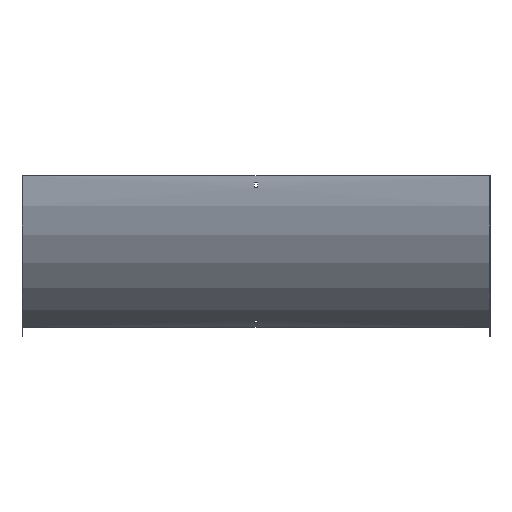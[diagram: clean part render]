
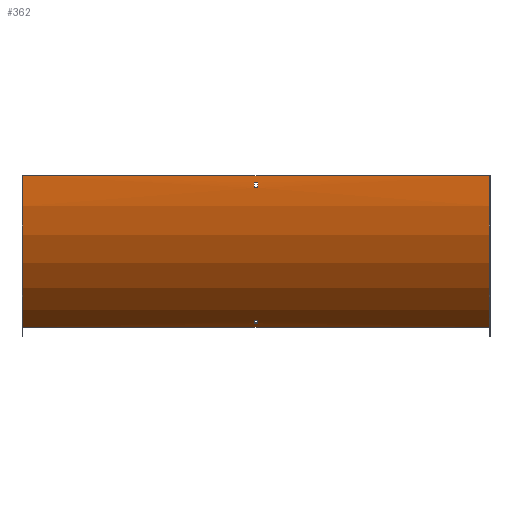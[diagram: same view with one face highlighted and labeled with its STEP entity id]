
A CAD part, front view. The second image highlights one B-rep face of the part: STEP entity #362.
In plain terms, the highlighted cylindrical face has radius 300 mm (diameter 600 mm), a partial arc.
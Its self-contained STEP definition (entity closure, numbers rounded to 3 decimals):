
#1 = LINE ( 'NONE', #62, #88 ) ;
#3 = AXIS2_PLACEMENT_3D ( 'NONE', #193, #387, #563 ) ;
#5 = CIRCLE ( 'NONE', #300, 300. ) ;
#12 = CARTESIAN_POINT ( 'NONE',  ( -3.25, 298.5, 0. ) ) ;
#28 = CARTESIAN_POINT ( 'NONE',  ( 401.5, -1.26, -12. ) ) ;
#32 = VERTEX_POINT ( 'NONE', #581 ) ;
#34 = AXIS2_PLACEMENT_3D ( 'NONE', #537, #169, #410 ) ;
#39 = EDGE_CURVE ( 'NONE', #411, #299, #5, .T. ) ;
#42 = AXIS2_PLACEMENT_3D ( 'NONE', #12, #153, #43 ) ;
#43 = DIRECTION ( 'NONE',  ( 0., 0., 1. ) ) ;
#51 = LINE ( 'NONE', #379, #280 ) ;
#55 = LINE ( 'NONE', #235, #560 ) ;
#59 = ORIENTED_EDGE ( 'NONE', *, *, #492, .T. ) ;
#62 = CARTESIAN_POINT ( 'NONE',  ( 401.5, 138.228, -253.6 ) ) ;
#63 = DIRECTION ( 'NONE',  ( 0., 0., -1. ) ) ;
#69 = ORIENTED_EDGE ( 'NONE', *, *, #90, .T. ) ;
#72 = ORIENTED_EDGE ( 'NONE', *, *, #479, .F. ) ;
#78 = ORIENTED_EDGE ( 'NONE', *, *, #523, .T. ) ;
#79 = CIRCLE ( 'NONE', #110, 300. ) ;
#83 = DIRECTION ( 'NONE',  ( 1., 0., 0. ) ) ;
#88 = VECTOR ( 'NONE', #370, 1000. ) ;
#90 = EDGE_CURVE ( 'NONE', #438, #208, #192, .T. ) ;
#93 = EDGE_LOOP ( 'NONE', ( #96, #533, #374, #78 ) ) ;
#96 = ORIENTED_EDGE ( 'NONE', *, *, #294, .T. ) ;
#99 = VERTEX_POINT ( 'NONE', #412 ) ;
#105 = CARTESIAN_POINT ( 'NONE',  ( 3.25, 298.5, 0. ) ) ;
#107 = VERTEX_POINT ( 'NONE', #496 ) ;
#110 = AXIS2_PLACEMENT_3D ( 'NONE', #105, #297, #63 ) ;
#115 = DIRECTION ( 'NONE',  ( 0., 0., 1. ) ) ;
#128 = ORIENTED_EDGE ( 'NONE', *, *, #323, .F. ) ;
#144 = ORIENTED_EDGE ( 'NONE', *, *, #229, .F. ) ;
#153 = DIRECTION ( 'NONE',  ( 1., 0., 0. ) ) ;
#154 = CARTESIAN_POINT ( 'NONE',  ( -3.25, 298.5, 0. ) ) ;
#156 = EDGE_CURVE ( 'NONE', #575, #484, #595, .T. ) ;
#157 = LINE ( 'NONE', #28, #211 ) ;
#158 = LINE ( 'NONE', #480, #469 ) ;
#162 = CYLINDRICAL_SURFACE ( 'NONE', #335, 300. ) ;
#169 = DIRECTION ( 'NONE',  ( -1., 0., 0. ) ) ;
#179 = VERTEX_POINT ( 'NONE', #542 ) ;
#188 = CARTESIAN_POINT ( 'NONE',  ( 3.25, -0.764, -21. ) ) ;
#192 = CIRCLE ( 'NONE', #34, 300. ) ;
#193 = CARTESIAN_POINT ( 'NONE',  ( 3.25, 298.5, 0. ) ) ;
#207 = DIRECTION ( 'NONE',  ( 0., 0., 1. ) ) ;
#208 = VERTEX_POINT ( 'NONE', #233 ) ;
#211 = VECTOR ( 'NONE', #536, 1000. ) ;
#229 = EDGE_CURVE ( 'NONE', #107, #575, #398, .T. ) ;
#233 = CARTESIAN_POINT ( 'NONE',  ( 400., -1.5, 0. ) ) ;
#235 = CARTESIAN_POINT ( 'NONE',  ( 400., 148.5, -259.808 ) ) ;
#237 = CARTESIAN_POINT ( 'NONE',  ( -3.25, 130.681, -248.67 ) ) ;
#251 = DIRECTION ( 'NONE',  ( -1., 0., 0. ) ) ;
#254 = CARTESIAN_POINT ( 'NONE',  ( -400., 298.5, 0. ) ) ;
#260 = FACE_OUTER_BOUND ( 'NONE', #476, .T. ) ;
#278 = VECTOR ( 'NONE', #83, 1000. ) ;
#280 = VECTOR ( 'NONE', #384, 1000. ) ;
#294 = EDGE_CURVE ( 'NONE', #32, #411, #1, .T. ) ;
#297 = DIRECTION ( 'NONE',  ( -1., 0., 0. ) ) ;
#299 = VERTEX_POINT ( 'NONE', #237 ) ;
#300 = AXIS2_PLACEMENT_3D ( 'NONE', #154, #341, #350 ) ;
#323 = EDGE_CURVE ( 'NONE', #442, #107, #157, .T. ) ;
#335 = AXIS2_PLACEMENT_3D ( 'NONE', #359, #251, #207 ) ;
#341 = DIRECTION ( 'NONE',  ( -1., 0., 0. ) ) ;
#350 = DIRECTION ( 'NONE',  ( 0., 1., 0. ) ) ;
#352 = DIRECTION ( 'NONE',  ( -1., 0., 0. ) ) ;
#359 = CARTESIAN_POINT ( 'NONE',  ( 401.5, 298.5, 0. ) ) ;
#362 = ADVANCED_FACE ( 'NONE', ( #588, #260, #402 ), #162, .T. ) ;
#368 = VERTEX_POINT ( 'NONE', #531 ) ;
#370 = DIRECTION ( 'NONE',  ( -1., 0., 0. ) ) ;
#374 = ORIENTED_EDGE ( 'NONE', *, *, #573, .T. ) ;
#379 = CARTESIAN_POINT ( 'NONE',  ( 400., -1.5, 0. ) ) ;
#382 = ORIENTED_EDGE ( 'NONE', *, *, #383, .F. ) ;
#383 = EDGE_CURVE ( 'NONE', #179, #99, #386, .T. ) ;
#384 = DIRECTION ( 'NONE',  ( -1., 0., 0. ) ) ;
#386 = CIRCLE ( 'NONE', #434, 300. ) ;
#387 = DIRECTION ( 'NONE',  ( 1., 0., 0. ) ) ;
#392 = CARTESIAN_POINT ( 'NONE',  ( 400., 148.5, -259.808 ) ) ;
#395 = CARTESIAN_POINT ( 'NONE',  ( -3.25, -0.764, -21. ) ) ;
#396 = ORIENTED_EDGE ( 'NONE', *, *, #156, .F. ) ;
#398 = CIRCLE ( 'NONE', #42, 300. ) ;
#402 = FACE_BOUND ( 'NONE', #93, .T. ) ;
#410 = DIRECTION ( 'NONE',  ( 0., 0., 1. ) ) ;
#411 = VERTEX_POINT ( 'NONE', #577 ) ;
#412 = CARTESIAN_POINT ( 'NONE',  ( -400., -1.5, 0. ) ) ;
#418 = ORIENTED_EDGE ( 'NONE', *, *, #591, .F. ) ;
#434 = AXIS2_PLACEMENT_3D ( 'NONE', #254, #352, #115 ) ;
#438 = VERTEX_POINT ( 'NONE', #392 ) ;
#442 = VERTEX_POINT ( 'NONE', #470 ) ;
#455 = CARTESIAN_POINT ( 'NONE',  ( 401.5, -0.764, -21. ) ) ;
#469 = VECTOR ( 'NONE', #522, 1000. ) ;
#470 = CARTESIAN_POINT ( 'NONE',  ( 3.25, -1.26, -12. ) ) ;
#476 = EDGE_LOOP ( 'NONE', ( #382, #72, #69, #59 ) ) ;
#479 = EDGE_CURVE ( 'NONE', #438, #179, #55, .T. ) ;
#480 = CARTESIAN_POINT ( 'NONE',  ( 401.5, 130.681, -248.67 ) ) ;
#484 = VERTEX_POINT ( 'NONE', #188 ) ;
#492 = EDGE_CURVE ( 'NONE', #208, #99, #51, .T. ) ;
#496 = CARTESIAN_POINT ( 'NONE',  ( -3.25, -1.26, -12. ) ) ;
#516 = DIRECTION ( 'NONE',  ( -1., 0., 0. ) ) ;
#522 = DIRECTION ( 'NONE',  ( 1., 0., 0. ) ) ;
#523 = EDGE_CURVE ( 'NONE', #368, #32, #593, .T. ) ;
#531 = CARTESIAN_POINT ( 'NONE',  ( 3.25, 130.681, -248.67 ) ) ;
#533 = ORIENTED_EDGE ( 'NONE', *, *, #39, .T. ) ;
#536 = DIRECTION ( 'NONE',  ( -1., 0., 0. ) ) ;
#537 = CARTESIAN_POINT ( 'NONE',  ( 400., 298.5, 0. ) ) ;
#542 = CARTESIAN_POINT ( 'NONE',  ( -400., 148.5, -259.808 ) ) ;
#560 = VECTOR ( 'NONE', #516, 1000. ) ;
#563 = DIRECTION ( 'NONE',  ( 0., 0., 1. ) ) ;
#573 = EDGE_CURVE ( 'NONE', #299, #368, #158, .T. ) ;
#575 = VERTEX_POINT ( 'NONE', #395 ) ;
#577 = CARTESIAN_POINT ( 'NONE',  ( -3.25, 138.228, -253.6 ) ) ;
#581 = CARTESIAN_POINT ( 'NONE',  ( 3.25, 138.228, -253.6 ) ) ;
#585 = EDGE_LOOP ( 'NONE', ( #144, #128, #418, #396 ) ) ;
#588 = FACE_BOUND ( 'NONE', #585, .T. ) ;
#591 = EDGE_CURVE ( 'NONE', #484, #442, #79, .T. ) ;
#593 = CIRCLE ( 'NONE', #3, 300. ) ;
#595 = LINE ( 'NONE', #455, #278 ) ;
